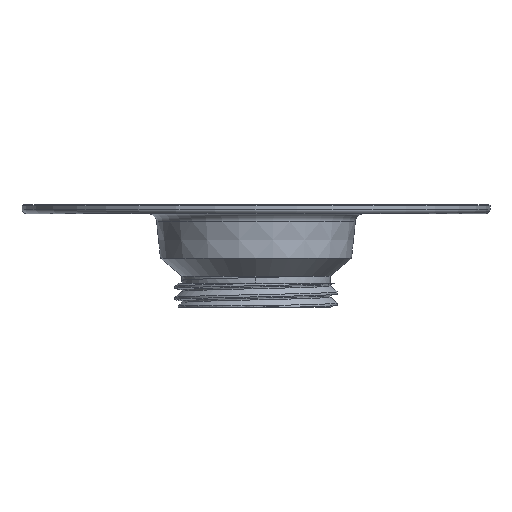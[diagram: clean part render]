
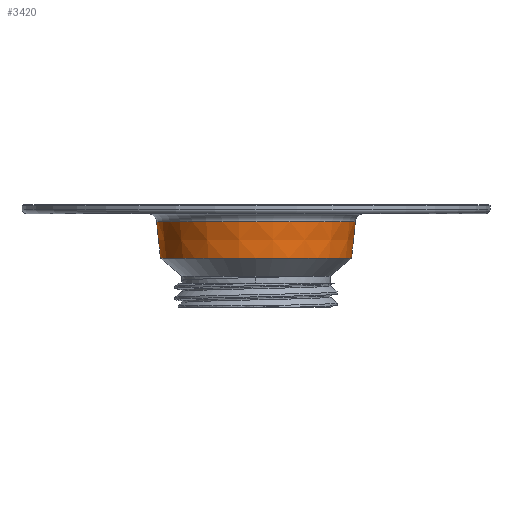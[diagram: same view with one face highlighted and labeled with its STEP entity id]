
A CAD part, front view. The second image highlights one B-rep face of the part: STEP entity #3420.
In plain terms, the highlighted conical face has half-angle 6.116 degrees and reference radius 43.5 mm.
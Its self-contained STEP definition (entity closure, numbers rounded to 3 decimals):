
#314=CONICAL_SURFACE('',#3792,43.5,0.107);
#442=FACE_OUTER_BOUND('',#683,.T.);
#683=EDGE_LOOP('',(#2714,#2715,#2716,#2717,#2718,#2719));
#836=CIRCLE('',#3603,42.862);
#837=CIRCLE('',#3604,42.862);
#979=CIRCLE('',#3789,44.617);
#980=CIRCLE('',#3790,44.617);
#1148=LINE('',#7176,#1386);
#1386=VECTOR('',#4489,43.5);
#1572=VERTEX_POINT('',#5663);
#1573=VERTEX_POINT('',#5664);
#1745=VERTEX_POINT('',#7170);
#1746=VERTEX_POINT('',#7171);
#1866=EDGE_CURVE('',#1572,#1573,#836,.T.);
#1867=EDGE_CURVE('',#1573,#1572,#837,.T.);
#2084=EDGE_CURVE('',#1745,#1746,#979,.T.);
#2085=EDGE_CURVE('',#1746,#1745,#980,.T.);
#2087=EDGE_CURVE('',#1572,#1746,#1148,.T.);
#2714=ORIENTED_EDGE('',*,*,#1866,.T.);
#2715=ORIENTED_EDGE('',*,*,#1867,.T.);
#2716=ORIENTED_EDGE('',*,*,#2087,.T.);
#2717=ORIENTED_EDGE('',*,*,#2084,.F.);
#2718=ORIENTED_EDGE('',*,*,#2085,.F.);
#2719=ORIENTED_EDGE('',*,*,#2087,.F.);
#3420=ADVANCED_FACE('',(#442),#314,.T.);
#3603=AXIS2_PLACEMENT_3D('',#5665,#4046,#4047);
#3604=AXIS2_PLACEMENT_3D('',#5666,#4048,#4049);
#3789=AXIS2_PLACEMENT_3D('',#7172,#4481,#4482);
#3790=AXIS2_PLACEMENT_3D('',#7173,#4483,#4484);
#3792=AXIS2_PLACEMENT_3D('',#7175,#4487,#4488);
#4046=DIRECTION('center_axis',(0.,0.,1.));
#4047=DIRECTION('ref_axis',(-1.,0.,0.));
#4048=DIRECTION('center_axis',(0.,0.,1.));
#4049=DIRECTION('ref_axis',(-1.,0.,0.));
#4481=DIRECTION('center_axis',(0.,0.,1.));
#4482=DIRECTION('ref_axis',(1.,0.,0.));
#4483=DIRECTION('center_axis',(0.,0.,1.));
#4484=DIRECTION('ref_axis',(1.,0.,0.));
#4487=DIRECTION('center_axis',(0.,0.,1.));
#4488=DIRECTION('ref_axis',(-1.,0.,0.));
#4489=DIRECTION('',(0.107,0.,0.994));
#5663=CARTESIAN_POINT('',(42.862,0.,-19.953));
#5664=CARTESIAN_POINT('',(0.,-42.862,-19.953));
#5665=CARTESIAN_POINT('Origin',(0.,0.,-19.953));
#5666=CARTESIAN_POINT('Origin',(0.,0.,-19.953));
#7170=CARTESIAN_POINT('',(-44.617,0.,-3.574));
#7171=CARTESIAN_POINT('',(44.617,0.,-3.574));
#7172=CARTESIAN_POINT('Origin',(0.,0.,-3.574));
#7173=CARTESIAN_POINT('Origin',(0.,0.,-3.574));
#7175=CARTESIAN_POINT('Origin',(0.,0.,-14.));
#7176=CARTESIAN_POINT('',(43.5,0.,-14.));
